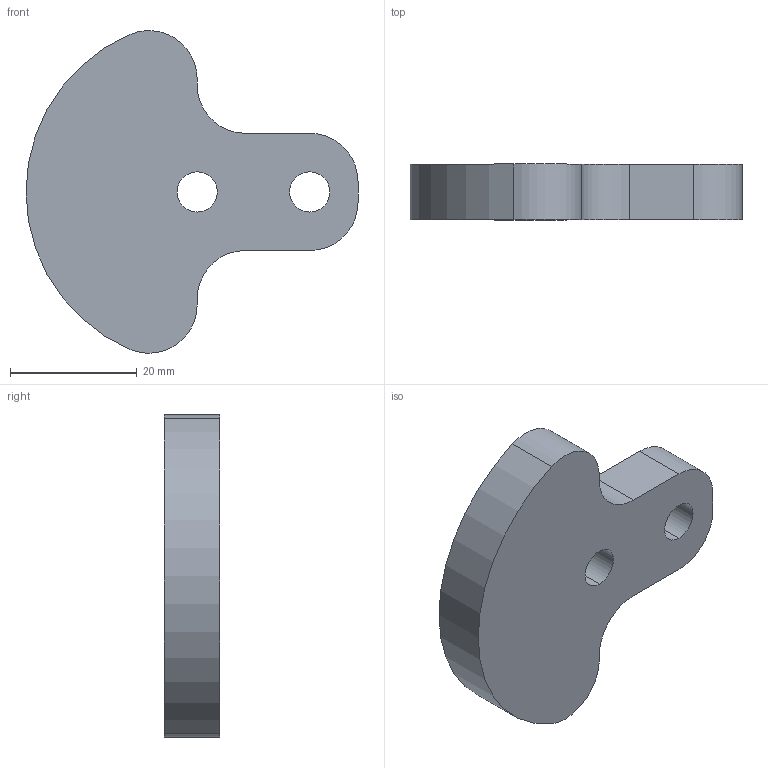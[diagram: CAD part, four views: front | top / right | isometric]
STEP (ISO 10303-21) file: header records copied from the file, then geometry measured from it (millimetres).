
FILE_DESCRIPTION (( 'STEP AP214' ), '1' );
FILE_NAME ('Crank.STEP', '2015-04-16T23:59:35', ( '' ), ( '' ), 'SwSTEP 2.0', 'SolidWorks 2012', '' );
FILE_SCHEMA (( 'AUTOMOTIVE_DESIGN' ));
Length unit declared in the file: inch
Products named in the file (1): Crank
Bounding box: 52.43 x 8.76 x 50.93 mm (x, y, z)
Volume: 13236.6 mm3; surface area: 4830.8 mm2
Topology: 1 solids, 1 shells, 19 faces, 51 edges, 34 vertices
Faces by surface type: cylinder 12, plane 7
Entity records: 657 total; most frequent: DIRECTION 115, CARTESIAN_POINT 105, ORIENTED_EDGE 102, EDGE_CURVE 51, AXIS2_PLACEMENT_3D 44, VERTEX_POINT 34, VECTOR 27, LINE 27
